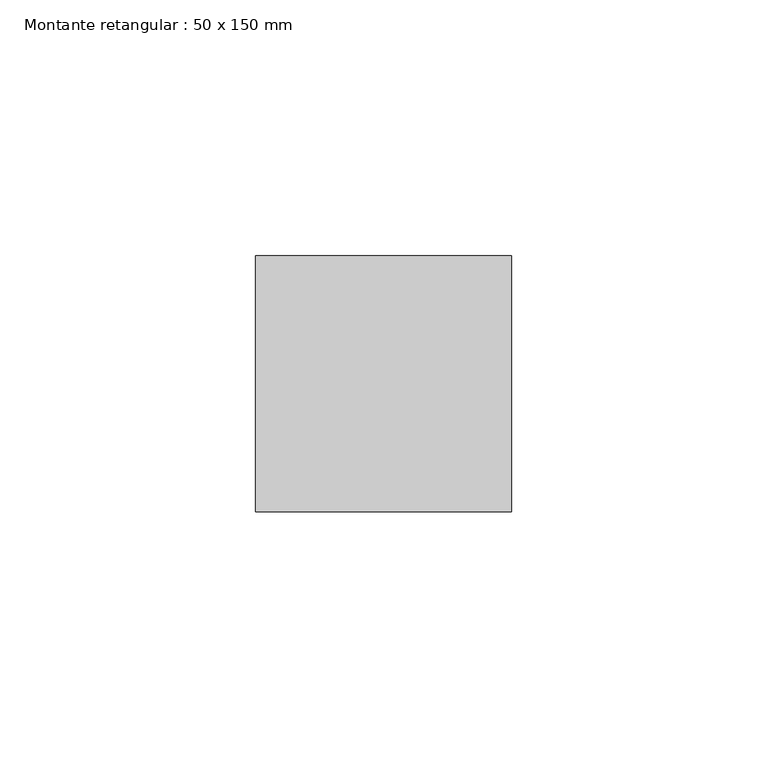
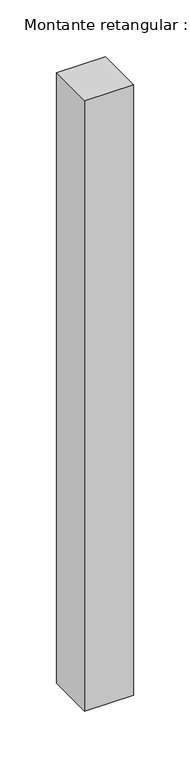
"""IFC4 building model written with IfcOpenShell, lengths in millimetres: member geometry, Montante retangular : 50 x 150 mm."""

from ifc_helpers import new_model, si_unit, frame, origin, place, context, project, spatial, polyline, outline, extrude, source, transform, mapped, element, save


def montante_retangular_50_x_150_mm_17bd8426(model_context):
    return source(origin(), model_context, "Body", "SweptSolid", [
        extrude(outline(polyline([(25.0, 25.0), (25.0, -25.0), (-25.0, -25.0), (-25.0, 25.0), (25.0, 25.0)])), frame((0.0, 0.0, -659.0004578), z_axis=(0.0, 0.0, 1.0), x_axis=(1.0, 0.0, 0.0)), (0.0, 0.0, 1.0), 659.0004578),
    ])


if __name__ == "__main__":
    model = new_model("IFC4")
    model_context = context("Model", 3, world=origin())
    ifc_project = project(units=[si_unit("LENGTHUNIT", "METRE", prefix="MILLI")], contexts=[model_context])
    site = spatial("IfcSite", under=ifc_project)
    building = spatial("IfcBuilding", under=site)
    placement = place(None, origin())
    montante_retangular_50_x_150_mm_shape = montante_retangular_50_x_150_mm_17bd8426(model_context)
    element("IfcMember", 1, ObjectType="Montante retangular : 50 x 150 mm", at=placement, inside=building, context=model_context, shape_type="MappedRepresentation", body=[
        mapped(montante_retangular_50_x_150_mm_shape, transform((0.0, 0.0, 0.0), x_axis=(1.0, 0.0, 0.0), y_axis=(0.0, 1.0, 0.0), z_axis=(0.0, 0.0, 1.0))),
    ])
    save(model, "model.ifc")
